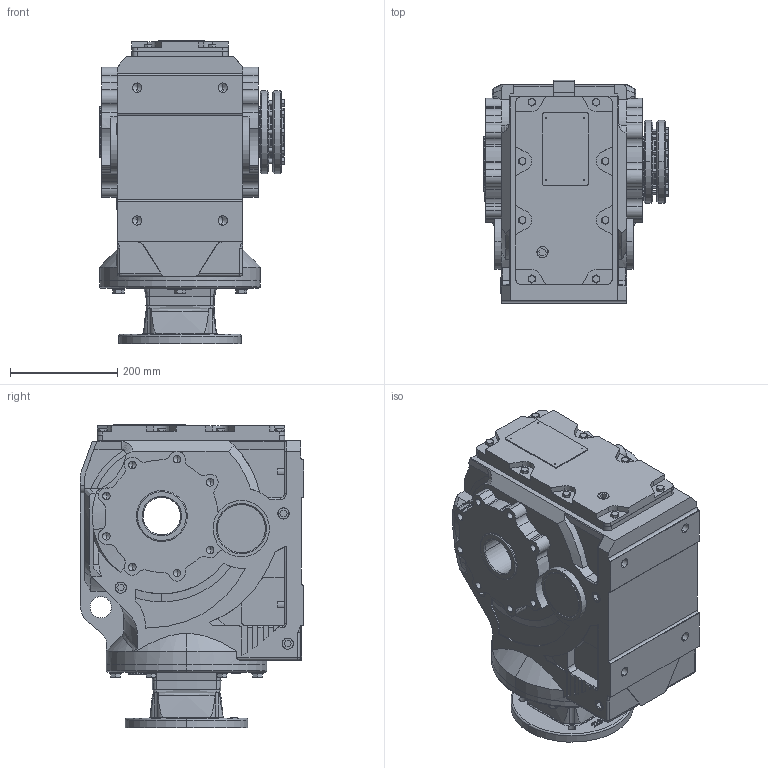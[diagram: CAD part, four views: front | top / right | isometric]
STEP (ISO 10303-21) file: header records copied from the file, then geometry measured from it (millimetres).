
FILE_DESCRIPTION (( 'STEP AP203' ), '1' );
FILE_NAME ('KAN97-213TC-A-POWER LOCK.STEP', '2020-12-04T06:16:55', ( 'Microsoft' ), ( 'Microsoft' ), 'SwSTEP 2.0', 'SolidWorks 2012', '' );
FILE_SCHEMA (( 'CONFIG_CONTROL_DESIGN' ));
Products named in the file (1): KAN97-213TC-A-POWER LOCK
Bounding box: 345 x 417.5 x 565.5 mm (x, y, z)
Volume: 42297736.2 mm3; surface area: 1393494.5 mm2
Topology: 2 solids, 28 shells, 1901 faces, 4765 edges, 2988 vertices
Faces by surface type: plane 746, cylinder 592, cone 377, bspline 141, torus 42, sphere 3
Entity records: 67320 total; most frequent: CARTESIAN_POINT 22573, ORIENTED_EDGE 9348, DIRECTION 9170, EDGE_CURVE 4674, AXIS2_PLACEMENT_3D 3402, VERTEX_POINT 2988, VECTOR 2366, LINE 2366
